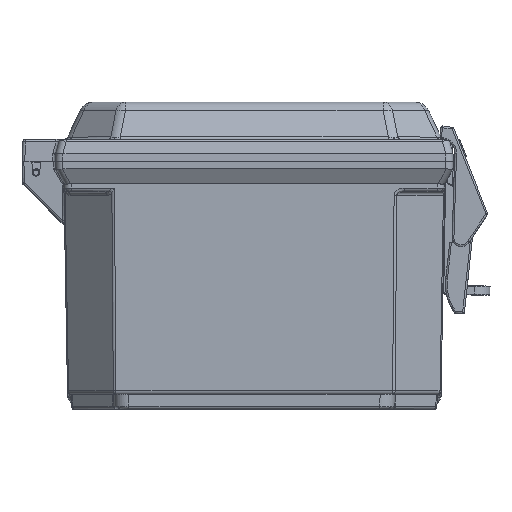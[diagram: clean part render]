
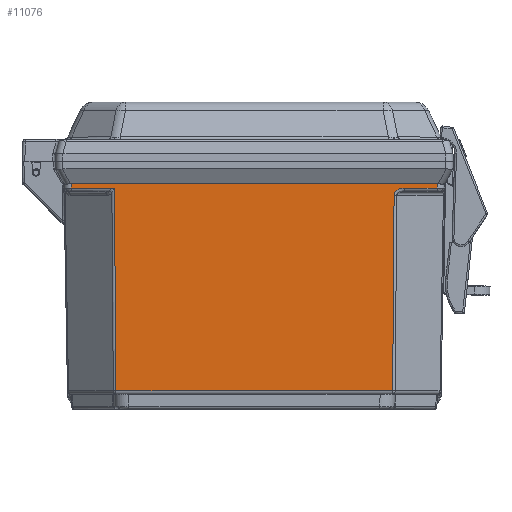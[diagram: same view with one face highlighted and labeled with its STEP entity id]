
A CAD part, top view. The second image highlights one B-rep face of the part: STEP entity #11076.
In plain terms, the highlighted planar face has unit normal (0, -0.018, 1).
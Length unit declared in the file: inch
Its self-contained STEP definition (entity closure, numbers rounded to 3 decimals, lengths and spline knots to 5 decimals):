
#1843 = CARTESIAN_POINT ( 'NONE',  ( -2.36191, -0.45159, 3.10501 ) ) ;
#2646 = DIRECTION ( 'NONE',  ( -1., 0., 0. ) ) ;
#3311 = CARTESIAN_POINT ( 'NONE',  ( 3.35563, -0.375, 3.10634 ) ) ;
#4078 = EDGE_CURVE ( 'NONE', #187513, #96781, #192501, .T. ) ;
#5337 = EDGE_CURVE ( 'NONE', #13520, #172645, #165554, .T. ) ;
#7976 = VERTEX_POINT ( 'NONE', #136003 ) ;
#10865 = CARTESIAN_POINT ( 'NONE',  ( -2.33715, -3.87559, 3.04524 ) ) ;
#11076 = ADVANCED_FACE ( 'NONE', ( #26557 ), #115600, .T. ) ;
#12450 = CARTESIAN_POINT ( 'NONE',  ( 2.38834, -3.87559, 3.04524 ) ) ;
#13066 = LINE ( 'NONE', #3311, #95202 ) ;
#13520 = VERTEX_POINT ( 'NONE', #150227 ) ;
#15689 = EDGE_CURVE ( 'NONE', #189414, #13520, #165869, .T. ) ;
#18369 = CARTESIAN_POINT ( 'NONE',  ( -3.09136, -0.375, 3.10634 ) ) ;
#20193 = ORIENTED_EDGE ( 'NONE', *, *, #5337, .T. ) ;
#23271 = EDGE_CURVE ( 'NONE', #96781, #189414, #13066, .T. ) ;
#26557 = FACE_OUTER_BOUND ( 'NONE', #30636, .T. ) ;
#26823 = VECTOR ( 'NONE', #182773, 39.37008 ) ;
#28011 = VECTOR ( 'NONE', #122629, 39.37008 ) ;
#29133 = CARTESIAN_POINT ( 'NONE',  ( 2.4335, -0.45159, 3.10501 ) ) ;
#29914 = CARTESIAN_POINT ( 'NONE',  ( 3.09115, -0.38726, 3.10613 ) ) ;
#30636 = EDGE_LOOP ( 'NONE', ( #76700, #62288, #174995, #61747, #143863, #126231, #178204, #63842, #20193 ) ) ;
#31605 = VECTOR ( 'NONE', #74509, 39.37008 ) ;
#36442 = VECTOR ( 'NONE', #89428, 39.37008 ) ;
#38481 = DIRECTION ( 'NONE',  ( 0., -1., -0.017 ) ) ;
#40726 = CARTESIAN_POINT ( 'NONE',  ( 3.09003, -0.45159, 3.10501 ) ) ;
#43058 = EDGE_CURVE ( 'NONE', #172645, #54690, #155053, .T. ) ;
#43090 = EDGE_CURVE ( 'NONE', #54690, #93092, #150282, .T. ) ;
#43126 = EDGE_CURVE ( 'NONE', #93092, #7976, #181617, .T. ) ;
#49713 = CARTESIAN_POINT ( 'NONE',  ( 2.33715, -3.87559, 3.04524 ) ) ;
#54690 = VERTEX_POINT ( 'NONE', #10865 ) ;
#56898 = CARTESIAN_POINT ( 'NONE',  ( 3.08895, -0.45159, 3.10501 ) ) ;
#57147 = DIRECTION ( 'NONE',  ( 1., 0., 0. ) ) ;
#59631 = CARTESIAN_POINT ( 'NONE',  ( 2.36246, -0.37481, 3.10635 ) ) ;
#61747 = ORIENTED_EDGE ( 'NONE', *, *, #176391, .F. ) ;
#62288 = ORIENTED_EDGE ( 'NONE', *, *, #43090, .T. ) ;
#62480 = LINE ( 'NONE', #56898, #103725 ) ;
#63842 = ORIENTED_EDGE ( 'NONE', *, *, #15689, .T. ) ;
#63881 = CARTESIAN_POINT ( 'NONE',  ( 3.09136, -0.375, 3.10634 ) ) ;
#74509 = DIRECTION ( 'NONE',  ( 0.007, 1., 0.017 ) ) ;
#75039 = AXIS2_PLACEMENT_3D ( 'NONE', #145424, #131227, #38481 ) ;
#76700 = ORIENTED_EDGE ( 'NONE', *, *, #43058, .T. ) ;
#89428 = DIRECTION ( 'NONE',  ( 0.007, -1., -0.017 ) ) ;
#93092 = VERTEX_POINT ( 'NONE', #49713 ) ;
#95202 = VECTOR ( 'NONE', #2646, 39.37008 ) ;
#96781 = VERTEX_POINT ( 'NONE', #63881 ) ;
#103725 = VECTOR ( 'NONE', #165107, 39.37008 ) ;
#107529 = CARTESIAN_POINT ( 'NONE',  ( 2.36102, -0.57441, 3.10286 ) ) ;
#115600 = PLANE ( 'NONE',  #75039 ) ;
#119453 = CARTESIAN_POINT ( 'NONE',  ( -2.36146, -0.45159, 3.10501 ) ) ;
#122629 = DIRECTION ( 'NONE',  ( 0.017, 1., 0.017 ) ) ;
#124796 = VECTOR ( 'NONE', #134357, 39.37008 ) ;
#126231 = ORIENTED_EDGE ( 'NONE', *, *, #4078, .T. ) ;
#126441 =( BOUNDED_CURVE ( )  B_SPLINE_CURVE ( 3, ( #184588, #29133, #200110, #107529 ),
 .UNSPECIFIED., .F., .F. ) 
 B_SPLINE_CURVE_WITH_KNOTS ( ( 4, 4 ),
 ( 1.59548, 3.14882 ),
 .UNSPECIFIED. ) 
 CURVE ( )  GEOMETRIC_REPRESENTATION_ITEM ( )  RATIONAL_B_SPLINE_CURVE ( ( 1., 0.809, 0.809, 1. ) ) 
 REPRESENTATION_ITEM ( '' )  );
#131227 = DIRECTION ( 'NONE',  ( 0., -0.017, 1. ) ) ;
#134357 = DIRECTION ( 'NONE',  ( 0.017, -1., -0.017 ) ) ;
#136003 = CARTESIAN_POINT ( 'NONE',  ( 2.36102, -0.57441, 3.10286 ) ) ;
#143863 = ORIENTED_EDGE ( 'NONE', *, *, #184100, .T. ) ;
#145424 = CARTESIAN_POINT ( 'NONE',  ( 2.38834, -0.375, 3.10634 ) ) ;
#150227 = CARTESIAN_POINT ( 'NONE',  ( -3.09003, -0.45159, 3.10501 ) ) ;
#150282 = LINE ( 'NONE', #12450, #26823 ) ;
#155053 = LINE ( 'NONE', #197638, #36442 ) ;
#165107 = DIRECTION ( 'NONE',  ( 1., 0., 0. ) ) ;
#165554 = LINE ( 'NONE', #119453, #170351 ) ;
#165869 = LINE ( 'NONE', #195778, #124796 ) ;
#170351 = VECTOR ( 'NONE', #57147, 39.37008 ) ;
#172645 = VERTEX_POINT ( 'NONE', #1843 ) ;
#174995 = ORIENTED_EDGE ( 'NONE', *, *, #43126, .T. ) ;
#176391 = EDGE_CURVE ( 'NONE', #178127, #7976, #126441, .T. ) ;
#178127 = VERTEX_POINT ( 'NONE', #178720 ) ;
#178204 = ORIENTED_EDGE ( 'NONE', *, *, #23271, .T. ) ;
#178720 = CARTESIAN_POINT ( 'NONE',  ( 2.53562, -0.45159, 3.10501 ) ) ;
#181617 = LINE ( 'NONE', #59631, #31605 ) ;
#182773 = DIRECTION ( 'NONE',  ( 1., 0., 0. ) ) ;
#184100 = EDGE_CURVE ( 'NONE', #178127, #187513, #62480, .T. ) ;
#184588 = CARTESIAN_POINT ( 'NONE',  ( 2.53562, -0.45159, 3.10501 ) ) ;
#187513 = VERTEX_POINT ( 'NONE', #40726 ) ;
#189414 = VERTEX_POINT ( 'NONE', #18369 ) ;
#192501 = LINE ( 'NONE', #29914, #28011 ) ;
#195778 = CARTESIAN_POINT ( 'NONE',  ( -3.08969, -0.47059, 3.10468 ) ) ;
#197638 = CARTESIAN_POINT ( 'NONE',  ( -2.36221, -0.40934, 3.10574 ) ) ;
#200110 = CARTESIAN_POINT ( 'NONE',  ( 2.36154, -0.50221, 3.10412 ) ) ;
